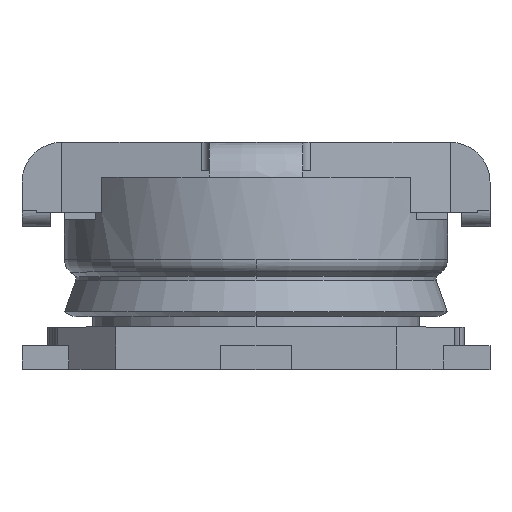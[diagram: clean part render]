
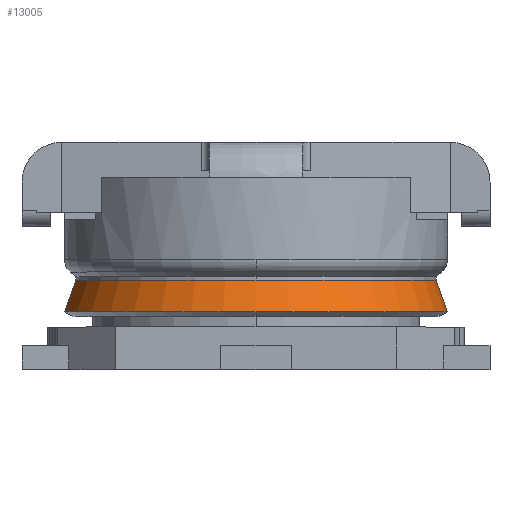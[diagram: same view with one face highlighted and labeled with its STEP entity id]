
A CAD part, top view. The second image highlights one B-rep face of the part: STEP entity #13005.
In plain terms, the highlighted conical face has half-angle 19.574 degrees and reference radius 0.77 mm.
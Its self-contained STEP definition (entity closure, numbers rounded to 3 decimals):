
#25 = DIRECTION ( 'NONE',  ( 0., 1., 0. ) ) ;
#427 = DIRECTION ( 'NONE',  ( 0.012, -0.942, -0.335 ) ) ;
#671 = LINE ( 'NONE', #4484, #6312 ) ;
#1399 = VERTEX_POINT ( 'NONE', #7272 ) ;
#1565 = DIRECTION ( 'NONE',  ( 0., 1., 0. ) ) ;
#1833 = EDGE_CURVE ( 'NONE', #7408, #9924, #8818, .T. ) ;
#1987 = ORIENTED_EDGE ( 'NONE', *, *, #9154, .T. ) ;
#2231 = CARTESIAN_POINT ( 'NONE',  ( 0., 0.245, 0.818 ) ) ;
#2412 = CARTESIAN_POINT ( 'NONE',  ( -0.029, 0.245, -0.817 ) ) ;
#2522 = AXIS2_PLACEMENT_3D ( 'NONE', #7893, #1565, #8965 ) ;
#2617 = VERTEX_POINT ( 'NONE', #13240 ) ;
#2893 = DIRECTION ( 'NONE',  ( 0., 1., 0. ) ) ;
#3114 = CONICAL_SURFACE ( 'NONE', #12284, 0.77, 0.342 ) ;
#3408 = ORIENTED_EDGE ( 'NONE', *, *, #13096, .F. ) ;
#4484 = CARTESIAN_POINT ( 'NONE',  ( 0., 2.546, 0. ) ) ;
#5049 = DIRECTION ( 'NONE',  ( 0., 1., 0. ) ) ;
#5562 = DIRECTION ( 'NONE',  ( 0., -1., 0. ) ) ;
#5817 = VERTEX_POINT ( 'NONE', #9394 ) ;
#5885 = AXIS2_PLACEMENT_3D ( 'NONE', #9226, #2893, #10283 ) ;
#5888 = AXIS2_PLACEMENT_3D ( 'NONE', #11429, #5049, #12487 ) ;
#6312 = VECTOR ( 'NONE', #9771, 1000. ) ;
#6359 = CARTESIAN_POINT ( 'NONE',  ( 0., 0.245, 0. ) ) ;
#6473 = AXIS2_PLACEMENT_3D ( 'NONE', #6359, #25, #7409 ) ;
#6622 = DIRECTION ( 'NONE',  ( 0., 0., -1. ) ) ;
#6745 = VERTEX_POINT ( 'NONE', #11083 ) ;
#7269 = ORIENTED_EDGE ( 'NONE', *, *, #13214, .F. ) ;
#7272 = CARTESIAN_POINT ( 'NONE',  ( -0.028, 0.38, -0.77 ) ) ;
#7408 = VERTEX_POINT ( 'NONE', #2412 ) ;
#7409 = DIRECTION ( 'NONE',  ( 0., 0., 1. ) ) ;
#7475 = CIRCLE ( 'NONE', #5885, 0.818 ) ;
#7893 = CARTESIAN_POINT ( 'NONE',  ( 0., 0.38, 0. ) ) ;
#8061 = ORIENTED_EDGE ( 'NONE', *, *, #1833, .T. ) ;
#8818 = CIRCLE ( 'NONE', #6473, 0.818 ) ;
#8965 = DIRECTION ( 'NONE',  ( 0., 0., 1. ) ) ;
#9154 = EDGE_CURVE ( 'NONE', #9924, #5817, #7475, .T. ) ;
#9226 = CARTESIAN_POINT ( 'NONE',  ( 0., 0.245, 0. ) ) ;
#9287 = EDGE_LOOP ( 'NONE', ( #11324, #8061, #1987, #3408, #12260, #7269 ) ) ;
#9394 = CARTESIAN_POINT ( 'NONE',  ( 0.029, 0.245, -0.817 ) ) ;
#9771 = DIRECTION ( 'NONE',  ( 0.012, 0.942, 0.335 ) ) ;
#9774 = CARTESIAN_POINT ( 'NONE',  ( 0., 0.38, 0. ) ) ;
#9924 = VERTEX_POINT ( 'NONE', #2231 ) ;
#9974 = EDGE_CURVE ( 'NONE', #7408, #1399, #671, .T. ) ;
#10213 = VECTOR ( 'NONE', #427, 1000. ) ;
#10283 = DIRECTION ( 'NONE',  ( 0., 0., 1. ) ) ;
#10564 = CIRCLE ( 'NONE', #5888, 0.77 ) ;
#10889 = LINE ( 'NONE', #11031, #10213 ) ;
#11031 = CARTESIAN_POINT ( 'NONE',  ( 0., 2.546, 0. ) ) ;
#11083 = CARTESIAN_POINT ( 'NONE',  ( 0., 0.38, 0.77 ) ) ;
#11324 = ORIENTED_EDGE ( 'NONE', *, *, #9974, .F. ) ;
#11429 = CARTESIAN_POINT ( 'NONE',  ( 0., 0.38, 0. ) ) ;
#11576 = FACE_OUTER_BOUND ( 'NONE', #9287, .T. ) ;
#12061 = CIRCLE ( 'NONE', #2522, 0.77 ) ;
#12260 = ORIENTED_EDGE ( 'NONE', *, *, #12703, .F. ) ;
#12284 = AXIS2_PLACEMENT_3D ( 'NONE', #9774, #5562, #6622 ) ;
#12487 = DIRECTION ( 'NONE',  ( 0., 0., 1. ) ) ;
#12703 = EDGE_CURVE ( 'NONE', #6745, #2617, #10564, .T. ) ;
#13005 = ADVANCED_FACE ( 'NONE', ( #11576 ), #3114, .T. ) ;
#13096 = EDGE_CURVE ( 'NONE', #2617, #5817, #10889, .T. ) ;
#13214 = EDGE_CURVE ( 'NONE', #1399, #6745, #12061, .T. ) ;
#13240 = CARTESIAN_POINT ( 'NONE',  ( 0.028, 0.38, -0.77 ) ) ;
